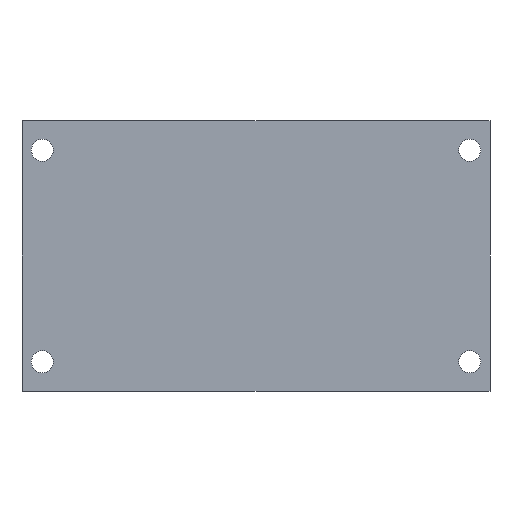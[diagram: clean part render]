
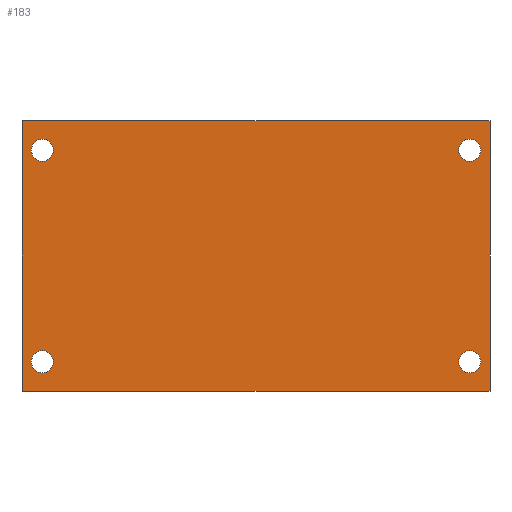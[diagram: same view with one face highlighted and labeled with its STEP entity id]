
A CAD part, front view. The second image highlights one B-rep face of the part: STEP entity #183.
In plain terms, the highlighted planar face has unit normal (0, -1, 0).
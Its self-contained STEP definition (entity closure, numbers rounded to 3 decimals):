
#183=ADVANCED_FACE('',(#441,#443,#445,#447,#449),#451,.T.);
#441=FACE_BOUND('',#442,.T.);
#442=EDGE_LOOP('',(#613,#614,#615,#616));
#443=FACE_BOUND('',#444,.T.);
#444=EDGE_LOOP('',(#617));
#445=FACE_BOUND('',#446,.T.);
#446=EDGE_LOOP('',(#618));
#447=FACE_BOUND('',#448,.T.);
#448=EDGE_LOOP('',(#619));
#449=FACE_BOUND('',#450,.T.);
#450=EDGE_LOOP('',(#620));
#451=PLANE('',#452);
#452=AXIS2_PLACEMENT_3D('',#453,#454,#455);
#453=CARTESIAN_POINT('',(23.75,0.,-16.6));
#454=DIRECTION('',(0.,-1.,0.));
#455=DIRECTION('',(0.,0.,-1.));
#613=ORIENTED_EDGE('',*,*,#653,.F.);
#614=ORIENTED_EDGE('',*,*,#680,.F.);
#615=ORIENTED_EDGE('',*,*,#660,.F.);
#616=ORIENTED_EDGE('',*,*,#681,.F.);
#617=ORIENTED_EDGE('',*,*,#682,.T.);
#618=ORIENTED_EDGE('',*,*,#683,.T.);
#619=ORIENTED_EDGE('',*,*,#684,.T.);
#620=ORIENTED_EDGE('',*,*,#685,.T.);
#653=EDGE_CURVE('',#711,#713,#714,.T.);
#660=EDGE_CURVE('',#724,#726,#727,.T.);
#680=EDGE_CURVE('',#726,#711,#760,.T.);
#681=EDGE_CURVE('',#713,#724,#761,.T.);
#682=EDGE_CURVE('',#762,#762,#763,.T.);
#683=EDGE_CURVE('',#764,#764,#765,.T.);
#684=EDGE_CURVE('',#766,#766,#767,.T.);
#685=EDGE_CURVE('',#768,#768,#769,.T.);
#711=VERTEX_POINT('',#826);
#713=VERTEX_POINT('',#830);
#714=LINE('',#831,#832);
#724=VERTEX_POINT('',#853);
#726=VERTEX_POINT('',#857);
#727=LINE('',#858,#859);
#760=LINE('',#942,#943);
#761=LINE('',#945,#946);
#762=VERTEX_POINT('',#948);
#763=CIRCLE('',#949,1.35);
#764=VERTEX_POINT('',#953);
#765=CIRCLE('',#954,1.35);
#766=VERTEX_POINT('',#958);
#767=CIRCLE('',#959,1.35);
#768=VERTEX_POINT('',#963);
#769=CIRCLE('',#964,1.35);
#826=CARTESIAN_POINT('',(-5.,0.,0.));
#830=CARTESIAN_POINT('',(52.5,0.,0.));
#831=CARTESIAN_POINT('',(-5.,0.,0.));
#832=VECTOR('',#833,1.);
#833=DIRECTION('',(1.,0.,0.));
#853=CARTESIAN_POINT('',(52.5,0.,-33.2));
#857=CARTESIAN_POINT('',(-5.,0.,-33.2));
#858=CARTESIAN_POINT('',(52.5,0.,-33.2));
#859=VECTOR('',#860,1.);
#860=DIRECTION('',(-1.,0.,0.));
#942=CARTESIAN_POINT('',(-5.,0.,-33.2));
#943=VECTOR('',#944,1.);
#944=DIRECTION('',(0.,0.,1.));
#945=CARTESIAN_POINT('',(52.5,0.,0.));
#946=VECTOR('',#947,1.);
#947=DIRECTION('',(0.,0.,-1.));
#948=CARTESIAN_POINT('',(-1.15,0.,-29.6));
#949=AXIS2_PLACEMENT_3D('',#950,#951,#952);
#950=CARTESIAN_POINT('',(-2.5,0.,-29.6));
#951=DIRECTION('',(0.,1.,0.));
#952=DIRECTION('',(1.,0.,0.));
#953=CARTESIAN_POINT('',(-1.15,0.,-3.6));
#954=AXIS2_PLACEMENT_3D('',#955,#956,#957);
#955=CARTESIAN_POINT('',(-2.5,0.,-3.6));
#956=DIRECTION('',(0.,1.,0.));
#957=DIRECTION('',(1.,0.,0.));
#958=CARTESIAN_POINT('',(51.35,0.,-3.6));
#959=AXIS2_PLACEMENT_3D('',#960,#961,#962);
#960=CARTESIAN_POINT('',(50.,0.,-3.6));
#961=DIRECTION('',(0.,1.,0.));
#962=DIRECTION('',(1.,0.,0.));
#963=CARTESIAN_POINT('',(51.35,0.,-29.6));
#964=AXIS2_PLACEMENT_3D('',#965,#966,#967);
#965=CARTESIAN_POINT('',(50.,0.,-29.6));
#966=DIRECTION('',(0.,1.,0.));
#967=DIRECTION('',(1.,0.,0.));
